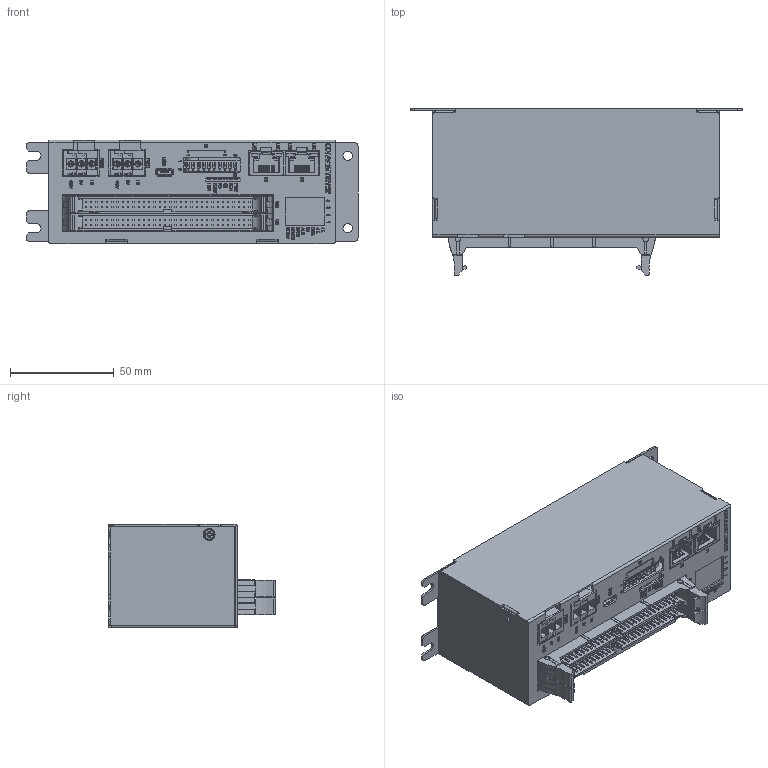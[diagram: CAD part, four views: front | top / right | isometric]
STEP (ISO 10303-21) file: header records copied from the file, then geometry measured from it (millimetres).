
FILE_DESCRIPTION((''),'2;1');
FILE_NAME('CTMM','2026-05-11T16:47:04',('gijyu181'),(''),'CREO PARAMETRIC BY PTC INC, 2018050','CREO PARAMETRIC BY PTC INC, 2018050','');
FILE_SCHEMA(('CONFIG_CONTROL_DESIGN','SHAPE_APPEARANCE_LAYERS_GROUPS'));
Products named in the file (1): CTMM
Bounding box: 160 x 80.5 x 50 mm (x, y, z)
Volume: 89203.8 mm3; surface area: 136433.5 mm2
Topology: 4 solids, 13 shells, 10052 faces, 27691 edges, 18231 vertices
Faces by surface type: plane 7922, extrusion 1325, cylinder 697, cone 72, torus 18, bspline 12, sphere 6
Entity records: 394940 total; most frequent: CARTESIAN_POINT 68239, ORIENTED_EDGE 55374, DIRECTION 45270, EDGE_CURVE 27691, VECTOR 24680, LINE 23355, VERTEX_POINT 18231, PRESENTATION_STYLE_ASSIGNMENT 11612
